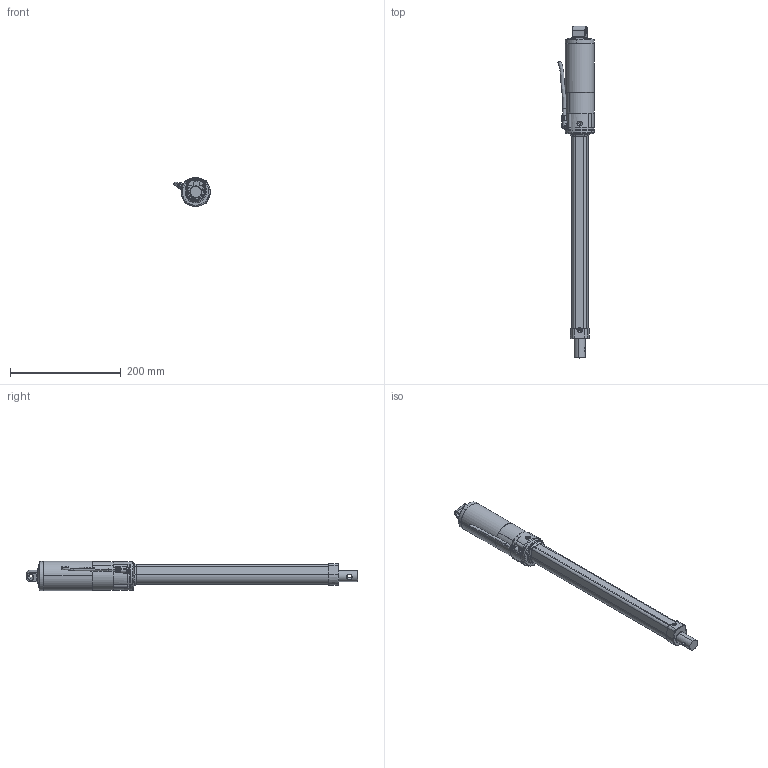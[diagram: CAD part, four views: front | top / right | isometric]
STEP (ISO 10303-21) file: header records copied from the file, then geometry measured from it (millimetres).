
FILE_DESCRIPTION((''),'2;1');
FILE_NAME('ASM0002_ASM','2023-03-18T',('USER'),(''),'PRO/ENGINEER BY PARAMETRIC TECHNOLOGY CORPORATION, 2008090','PRO/ENGINEER BY PARAMETRIC TECHNOLOGY CORPORATION, 2008090','');
FILE_SCHEMA(('CONFIG_CONTROL_DESIGN'));
Products named in the file (3): PRT0001; PRT0005; ASM0002_ASM
Assembly tree (2 placements, depth 2):
  ASM0002_ASM
    PRT0001
    PRT0005
Bounding box: 65.96 x 600 x 52.5 mm (x, y, z)
Surface area: 256804.2 mm2 (no closed solid volume)
Topology: 0 solids, 11 shells, 1654 faces, 4642 edges, 3024 vertices
Faces by surface type: plane 667, cylinder 543, cone 262, torus 110, bspline 68, sphere 4
Entity records: 62342 total; most frequent: CARTESIAN_POINT 18797, DIRECTION 9311, ORIENTED_EDGE 9238, EDGE_CURVE 4637, AXIS2_PLACEMENT_3D 3579, VERTEX_POINT 3024, VECTOR 2153, LINE 2153
